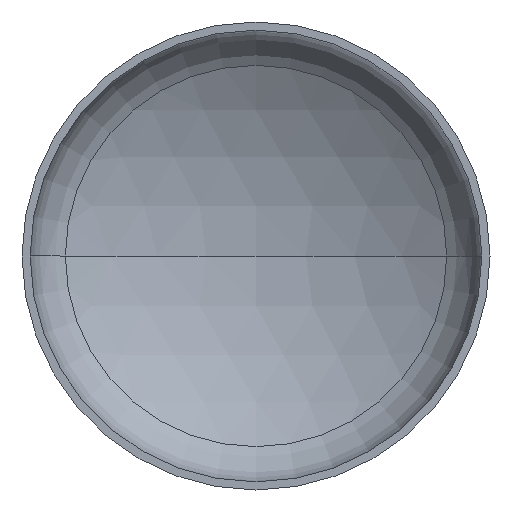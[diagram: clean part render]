
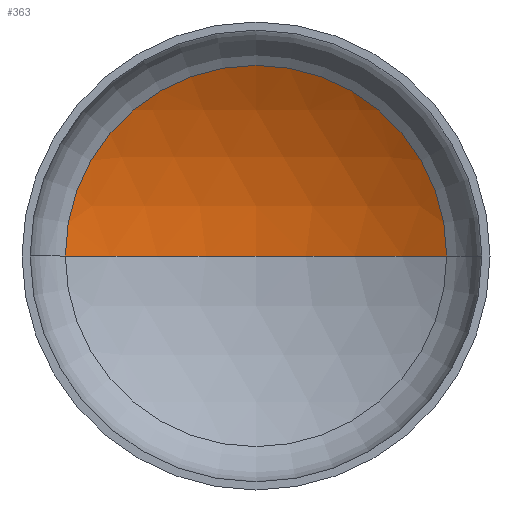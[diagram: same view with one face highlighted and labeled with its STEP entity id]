
A CAD part, front view. The second image highlights one B-rep face of the part: STEP entity #363.
In plain terms, the highlighted spherical face has radius 1280 mm.
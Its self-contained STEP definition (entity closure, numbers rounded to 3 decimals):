
#8 = EDGE_LOOP ( 'NONE', ( #117, #114, #48 ) ) ;
#19 = AXIS2_PLACEMENT_3D ( 'NONE', #352, #211, #214 ) ;
#30 = AXIS2_PLACEMENT_3D ( 'NONE', #176, #134, #140 ) ;
#48 = ORIENTED_EDGE ( 'NONE', *, *, #332, .T. ) ;
#114 = ORIENTED_EDGE ( 'NONE', *, *, #341, .T. ) ;
#117 = ORIENTED_EDGE ( 'NONE', *, *, #377, .F. ) ;
#119 = VERTEX_POINT ( 'NONE', #296 ) ;
#120 = VERTEX_POINT ( 'NONE', #299 ) ;
#134 = DIRECTION ( 'NONE',  ( 0., -1., 0. ) ) ;
#140 = DIRECTION ( 'NONE',  ( 1., 0., 0. ) ) ;
#146 = FACE_OUTER_BOUND ( 'NONE', #8, .T. ) ;
#149 = VERTEX_POINT ( 'NONE', #219 ) ;
#175 = CARTESIAN_POINT ( 'NONE',  ( 0., -805.784, 0. ) ) ;
#176 = CARTESIAN_POINT ( 'NONE',  ( 0., 295.862, 0. ) ) ;
#200 = SPHERICAL_SURFACE ( 'NONE', #381, 1280. ) ;
#211 = DIRECTION ( 'NONE',  ( 0., 0., -1. ) ) ;
#214 = DIRECTION ( 'NONE',  ( -1., 0., 0. ) ) ;
#219 = CARTESIAN_POINT ( 'NONE',  ( 651.749, 295.862, 0. ) ) ;
#221 = CIRCLE ( 'NONE', #19, 1280. ) ;
#259 = DIRECTION ( 'NONE',  ( 1., 0., 0. ) ) ;
#296 = CARTESIAN_POINT ( 'NONE',  ( -651.749, 295.862, 0. ) ) ;
#299 = CARTESIAN_POINT ( 'NONE',  ( 0., 474.216, 0. ) ) ;
#304 = CARTESIAN_POINT ( 'NONE',  ( 0., -805.784, 0. ) ) ;
#332 = EDGE_CURVE ( 'NONE', #149, #119, #404, .T. ) ;
#341 = EDGE_CURVE ( 'NONE', #120, #149, #221, .T. ) ;
#352 = CARTESIAN_POINT ( 'NONE',  ( 0., -805.784, 0. ) ) ;
#359 = DIRECTION ( 'NONE',  ( -1., 0., 0. ) ) ;
#363 = ADVANCED_FACE ( 'NONE', ( #146 ), #200, .F. ) ;
#377 = EDGE_CURVE ( 'NONE', #120, #119, #384, .T. ) ;
#381 = AXIS2_PLACEMENT_3D ( 'NONE', #175, #402, #359 ) ;
#384 = CIRCLE ( 'NONE', #405, 1280. ) ;
#399 = DIRECTION ( 'NONE',  ( 0., 0., 1. ) ) ;
#402 = DIRECTION ( 'NONE',  ( 0., 0., -1. ) ) ;
#404 = CIRCLE ( 'NONE', #30, 651.749 ) ;
#405 = AXIS2_PLACEMENT_3D ( 'NONE', #304, #399, #259 ) ;
